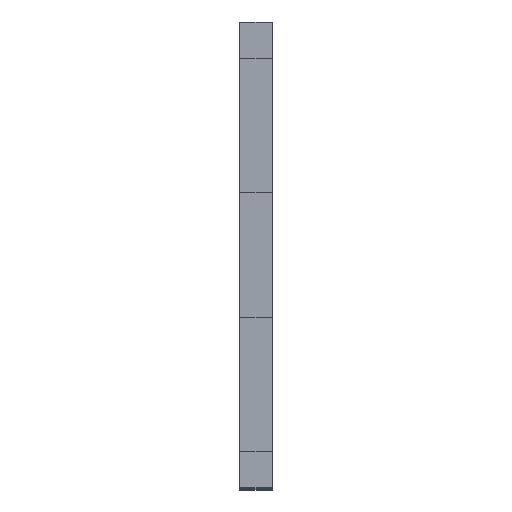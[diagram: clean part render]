
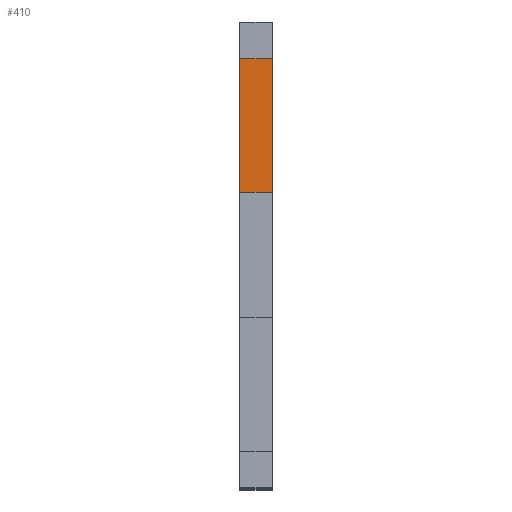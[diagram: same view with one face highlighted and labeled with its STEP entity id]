
A CAD part, top view. The second image highlights one B-rep face of the part: STEP entity #410.
In plain terms, the highlighted planar face has unit normal (0, 0, 1).
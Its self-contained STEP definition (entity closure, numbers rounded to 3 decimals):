
#252 = FACE_OUTER_BOUND ( 'NONE', #419, .T. ) ;
#275 = LINE ( 'NONE', #824, #1166 ) ;
#372 = DIRECTION ( 'NONE',  ( 0., -1., 0. ) ) ;
#391 = ORIENTED_EDGE ( 'NONE', *, *, #1075, .T. ) ;
#394 = ORIENTED_EDGE ( 'NONE', *, *, #1712, .T. ) ;
#396 = DIRECTION ( 'NONE',  ( 0., 1., 0. ) ) ;
#401 = LINE ( 'NONE', #1493, #1406 ) ;
#410 = ADVANCED_FACE ( 'NONE', ( #252 ), #1373, .F. ) ;
#419 = EDGE_LOOP ( 'NONE', ( #391, #507, #768, #394 ) ) ;
#443 = CARTESIAN_POINT ( 'NONE',  ( 2.5, 0., 47.3 ) ) ;
#507 = ORIENTED_EDGE ( 'NONE', *, *, #1207, .F. ) ;
#649 = LINE ( 'NONE', #759, #1026 ) ;
#682 = CARTESIAN_POINT ( 'NONE',  ( 2.5, 15., 47.3 ) ) ;
#691 = AXIS2_PLACEMENT_3D ( 'NONE', #802, #1353, #396 ) ;
#709 = CARTESIAN_POINT ( 'NONE',  ( 2.5, 4.775, 47.3 ) ) ;
#730 = LINE ( 'NONE', #443, #864 ) ;
#759 = CARTESIAN_POINT ( 'NONE',  ( 0., 0., 47.3 ) ) ;
#768 = ORIENTED_EDGE ( 'NONE', *, *, #1312, .F. ) ;
#785 = CARTESIAN_POINT ( 'NONE',  ( 0., 15., 47.3 ) ) ;
#802 = CARTESIAN_POINT ( 'NONE',  ( 2.5, 0., 47.3 ) ) ;
#815 = DIRECTION ( 'NONE',  ( -1., 0., 0. ) ) ;
#824 = CARTESIAN_POINT ( 'NONE',  ( 2.5, 15., 47.3 ) ) ;
#864 = VECTOR ( 'NONE', #1007, 1000. ) ;
#1007 = DIRECTION ( 'NONE',  ( 0., -1., 0. ) ) ;
#1026 = VECTOR ( 'NONE', #372, 1000. ) ;
#1031 = VERTEX_POINT ( 'NONE', #1131 ) ;
#1061 = VERTEX_POINT ( 'NONE', #785 ) ;
#1075 = EDGE_CURVE ( 'NONE', #1061, #1031, #649, .T. ) ;
#1131 = CARTESIAN_POINT ( 'NONE',  ( 0., 4.775, 47.3 ) ) ;
#1166 = VECTOR ( 'NONE', #1204, 1000. ) ;
#1196 = VERTEX_POINT ( 'NONE', #709 ) ;
#1204 = DIRECTION ( 'NONE',  ( -1., 0., 0. ) ) ;
#1207 = EDGE_CURVE ( 'NONE', #1196, #1031, #401, .T. ) ;
#1312 = EDGE_CURVE ( 'NONE', #1654, #1196, #730, .T. ) ;
#1353 = DIRECTION ( 'NONE',  ( 0., 0., -1. ) ) ;
#1373 = PLANE ( 'NONE',  #691 ) ;
#1406 = VECTOR ( 'NONE', #815, 1000. ) ;
#1493 = CARTESIAN_POINT ( 'NONE',  ( 2.5, 4.775, 47.3 ) ) ;
#1654 = VERTEX_POINT ( 'NONE', #682 ) ;
#1712 = EDGE_CURVE ( 'NONE', #1654, #1061, #275, .T. ) ;
